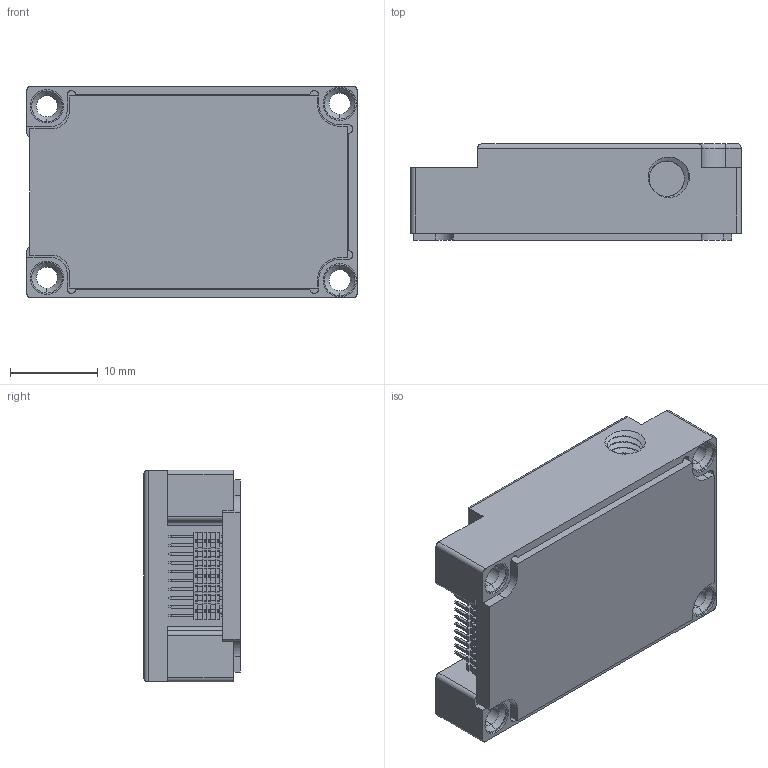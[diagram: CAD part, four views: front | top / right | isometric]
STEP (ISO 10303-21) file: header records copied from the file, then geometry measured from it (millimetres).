
FILE_DESCRIPTION (( 'STEP AP203' ), '1' );
FILE_NAME ('ADiS16448 shell model.STEP', '2011-05-26T15:21:38', ( 'Roy Buck' ), ( 'Analog Devices Inc.' ), 'SwSTEP 2.0', 'SolidWorks 2009', '' );
FILE_SCHEMA (( 'CONFIG_CONTROL_DESIGN' ));
Products named in the file (18): c3dMW-B_Formula; c3dMW-T_FINAL; C3dMWSM-AX-H_SM-A7-H; ADiS16448 shell model; housing 5mm 041411 machined; Horizontal l sensor bd 042011 plate; MW-10-03-X-D-186-065-EP-A; c3dMW-B2; c3dMW-T
Assembly tree (27 placements, depth 3):
  ADiS16448 shell model
    Horizontal l sensor bd 042011 plate
    MW-10-03-X-D-186-065-EP-A
      C3dMWSM-AX-H_SM-A7-H  x2
      c3dMW-T  x10
      c3dMW-B2
      c3dMW-T_FINAL
      c3dMW-T_FINAL
      c3dMW-T_FINAL
      c3dMW-T_FINAL
      c3dMW-T_FINAL
      c3dMW-B_Formula
      c3dMW-T_FINAL
      c3dMW-T_FINAL
      c3dMW-T_FINAL
      c3dMW-T_FINAL
      c3dMW-T_FINAL
    housing 5mm 041411 machined
Bounding box: 37.7 x 11 x 24.15 mm (x, y, z)
Volume: 4347.6 mm3; surface area: 6424.4 mm2
Topology: 62 solids, 62 shells, 1694 faces, 4191 edges, 2630 vertices
Faces by surface type: plane 1471, cylinder 159, cone 40, bspline 22, torus 2
Entity records: 48014 total; most frequent: CARTESIAN_POINT 9053, ORIENTED_EDGE 7698, DIRECTION 7163, EDGE_CURVE 3849, VECTOR 3517, LINE 3517, VERTEX_POINT 2428, AXIS2_PLACEMENT_3D 1823
